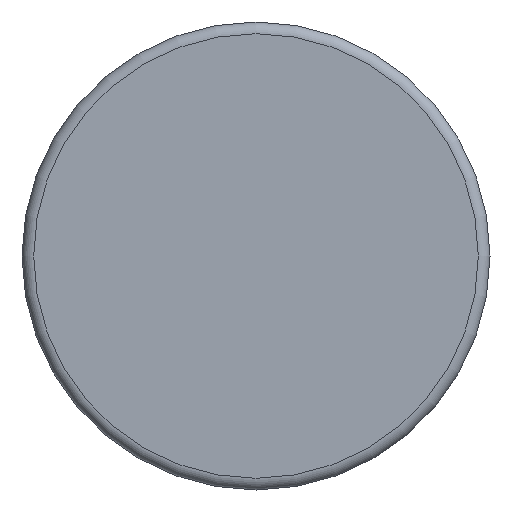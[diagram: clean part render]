
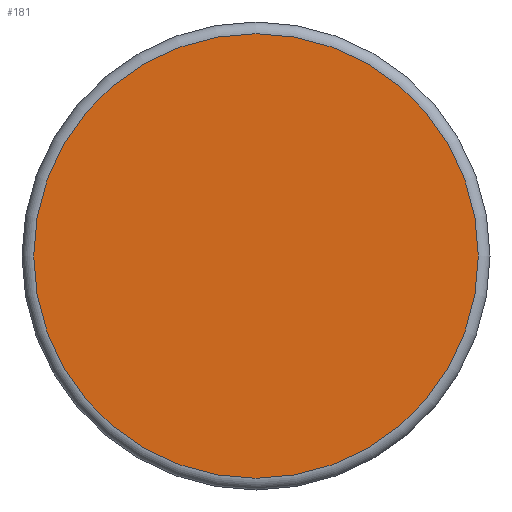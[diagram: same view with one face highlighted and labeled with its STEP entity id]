
A CAD part, front view. The second image highlights one B-rep face of the part: STEP entity #181.
In plain terms, the highlighted planar face has unit normal (0, -1, 0).
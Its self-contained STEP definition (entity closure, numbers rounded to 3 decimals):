
#181 = ADVANCED_FACE( '', ( #350 ), #351, .F. );
#350 = FACE_OUTER_BOUND( '', #532, .T. );
#351 = PLANE( '', #533 );
#532 = EDGE_LOOP( '', ( #802 ) );
#533 = AXIS2_PLACEMENT_3D( '', #803, #804, #805 );
#802 = ORIENTED_EDGE( '', *, *, #1096, .T. );
#803 = CARTESIAN_POINT( '', ( 19., 0., 0. ) );
#804 = DIRECTION( '', ( 0., 1., 0. ) );
#805 = DIRECTION( '', ( 0., 0., 1. ) );
#1096 = EDGE_CURVE( '', #1283, #1283, #1284, .T. );
#1283 = VERTEX_POINT( '', #1707 );
#1284 = CIRCLE( '', #1708, 19. );
#1707 = CARTESIAN_POINT( '', ( 0., 0., -19. ) );
#1708 = AXIS2_PLACEMENT_3D( '', #1881, #1882, #1883 );
#1881 = CARTESIAN_POINT( '', ( 0., 0., 0. ) );
#1882 = DIRECTION( '', ( 0., -1., 0. ) );
#1883 = DIRECTION( '', ( 0., 0., -1. ) );
